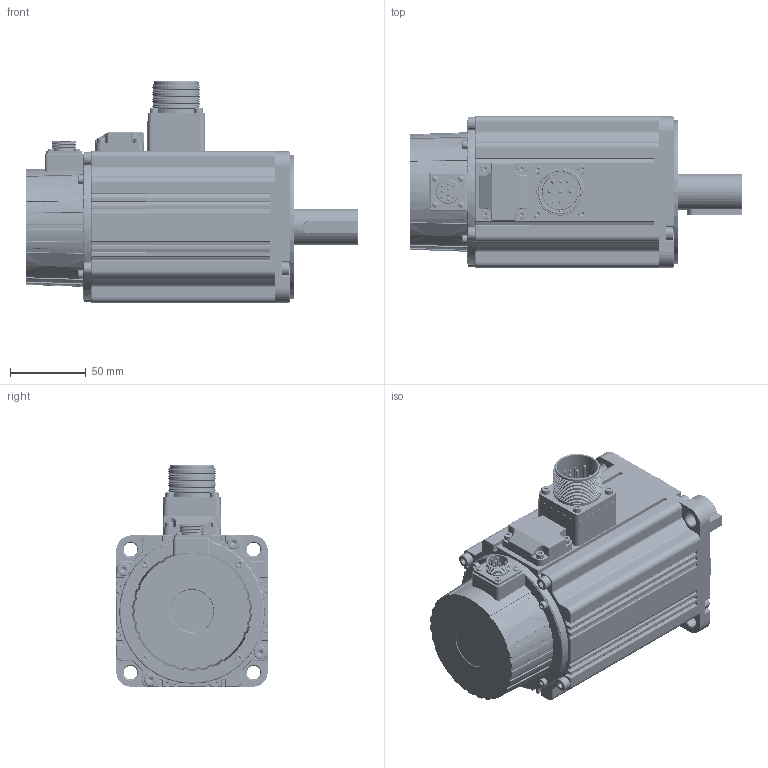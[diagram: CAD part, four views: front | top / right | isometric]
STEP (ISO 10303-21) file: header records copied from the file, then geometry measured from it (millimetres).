
FILE_DESCRIPTION (( 'STEP AP214' ), '1' );
FILE_NAME ('V9E-L10D-1R030-D2.STEP', '2024-05-08T08:58:55', ( 'IT' ), ( '' ), 'SwSTEP 2.0', 'SolidWorks 2014', '' );
FILE_SCHEMA (( 'AUTOMOTIVE_DESIGN' ));
Length unit declared in the file: millimetre
Products named in the file (45): _6203ZZ Ball; _6203ZZ Shield2; E13B106AB1; V10L101F001; _6203ZZ Inner ring; TS5700N8401_1; E13B106AE1; 价陬蛌赽郪璃-40; REB71110(24V)8A-G003; V9E-L10D-1R030-D2; V10L102Q001; 蚐猾 D00B999YF9-TC 25-32-4-110#; 埴芛囀鞠褒 ISO 4762 M3 x 29; ﾊｮﾗﾖｲﾛﾅﾌﾍｷﾗﾔｹ･ﾂﾝｶ､ ST2.9x8-F-H; cross recessed countersunk head screws gb2_GB_CROSS_SCREWS_TYPE10 M4X20-17.3-H1-N_1; V10L106O001; CT6.8-4,2-6.62_1; 埴芛囀鞠褒 ISO 4762 M3 x 12; G003-REB71110-5A_1; E13B106AA1; O型圈 74x2; GB／T276-94深沟球轴承6205-2Z-1; LZ-REB71110.3TA(SF218-10); 埴芛囀鞠褒 ISO 4762 M4 x 25; 波垫垫圈 JB-7590 D52; 埴芛囀鞠褒 ISO 4762 M5 x 18; 晤鎢ん TS5700N8401 23bit橈勤硉1; SC瑤諾脣芛 MS3102A20-18P; 埴芛囀鞠褒 ISO 4762 M3 x 8 --- 8N; 16M-9P; _6203ZZ Shield1; G003-REB71110-2A_1; 价陬隅赽-40; GB-T 1096 键 C 8x7x36 带M3起键螺钉孔; G003-REB71110.1-1B_1; V10L102H002-S; E13B106AF1; V10L103Z001; 内六角圆柱头螺钉、弹簧垫圈及平垫圈组合件 M3x8; _6203ZZ Outer ring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
Assembly tree (81 placements, depth 4):
  V9E-L10D-1R030-D2
    价陬隅赽-40
      V10L102Q001
      V10L101F001
      E13B106AA1
      SC瑤諾脣芛 MS3102A20-18P
      埴芛囀鞠褒 ISO 4762 M3 x 29  x4
      E13B106AE1
      埴芛囀鞠褒 ISO 4762 M5 x 18  x4
    价陬蛌赽郪璃-40
      V10L102H002-S
      GB／T276-94深沟球轴承6205-2Z-1
      110#綴粣創-6203ZZ
        _6203ZZ Outer ring
        _6203ZZ Shield1
        _6203ZZ Inner ring
        _6203ZZ Ball  x13
        _6203ZZ Shield2
      V10L103Z001
      REB71110(24V)8A-G003
        G003-REB71110.1-1B_1
        G003-REB71110-2A_1
        G003-REB71110-5A_1
        CT6.8-4,2-6.62_1  x3
        cross recessed countersunk head screws gb2_GB_CROSS_SCREWS_TYPE10 M4X20-17.3-H1-N_1  x3
        LZ-REB71110.3TA(SF218-10)
        LZ-REB0412-4(Y22X18B)
      埴芛囀鞠褒 ISO 4762 M4 x 25  x3
      V10L106O001
    蚐猾 D00B999YF9-TC 25-32-4-110#
    16M-9P
    V10E106B001_9о
    埴芛囀鞠褒 ISO 4762 M3 x 12  x4
    埴芛囀鞠褒 ISO 4762 M5 x 45  x4
    E13B106AF1
    E13B106AB1
    O型圈 74x2
    晤鎢ん TS5700N8401 23bit橈勤硉1
      编码器簧片支架  TS  安装直径40_1
      TS5700N8401_1
    内六角圆柱头螺钉、弹簧垫圈及平垫圈组合件 M3x8  x2
    GB-T 1096 键 C 8x7x36 带M3起键螺钉孔
    埴芛囀鞠褒 ISO 4762 M3 x 8 --- 8N  x4
    波垫垫圈 JB-7590 D52
    ﾊｮﾗﾖｲﾛﾅﾌﾍｷﾗﾔｹ･ﾂﾝｶ､ ST2.9x8-F-H  x4
Bounding box: 219.2 x 100 x 146.3 mm (x, y, z)
Volume: 755869.1 mm3; surface area: 344909.9 mm2
Topology: 78 solids, 78 shells, 3679 faces, 9011 edges, 5397 vertices
Faces by surface type: cylinder 1435, plane 1109, torus 389, cone 342, bspline 233, sphere 171
Entity records: 108189 total; most frequent: CARTESIAN_POINT 26945, DIRECTION 16319, ORIENTED_EDGE 14732, EDGE_CURVE 7366, AXIS2_PLACEMENT_3D 6641, VERTEX_POINT 4513, CIRCLE 3651, EDGE_LOOP 3395
